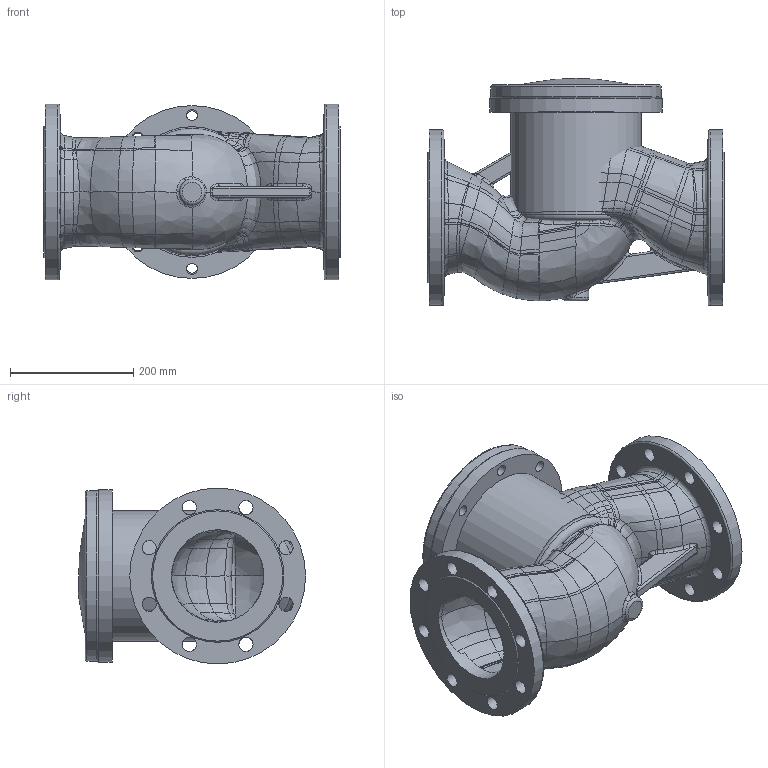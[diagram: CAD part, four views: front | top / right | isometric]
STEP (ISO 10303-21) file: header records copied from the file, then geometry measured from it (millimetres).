
FILE_DESCRIPTION(/* description */ ('STEP AP203'),/* implementation_level */ '2;1');
FILE_NAME(/* name */ '',/* time_stamp */ '2025-02-21T12:16:33+07:00',/* author */ ('Eva'),/* organization */ (''),/* preprocessor_version */ 'ST-DEVELOPER v20',/* originating_system */ 'Autodesk Inventor 2025',/* authorisation */ '');
FILE_SCHEMA (('AUTOMOTIVE_DESIGN { 1 0 10303 214 3 1 1 }'));
Products named in the file (3): 止回阀150; 止回阀150阀盖; 150.stp
Assembly tree (2 placements, depth 2):
  止回阀150
    止回阀150阀盖
    150.stp
Bounding box: 480 x 368.16 x 285 mm (x, y, z)
Volume: 10250810.4 mm3; surface area: 1520962.3 mm2
Topology: 5 solids, 5 shells, 1220 faces, 2903 edges, 1696 vertices
Faces by surface type: bspline 1010, cylinder 78, plane 73, torus 29, cone 25, sphere 5
Full cylindrical faces by diameter (mm): 5 x1, 18 x16, 23 x16, 60 x1, 66 x1, 84 x1, 135 x1, 153 x1, 159 x1, 175 x3, 178 x1, 195 x1, 206.159 x1, 208 x1, 211.759 x2, 276 x1, 280 x1, 285 x2
Entity records: 79793 total; most frequent: CARTESIAN_POINT 57821, ORIENTED_EDGE 5790, EDGE_CURVE 2895, DIRECTION 2426, VERTEX_POINT 1696, B_SPLINE_CURVE_WITH_KNOTS 1692, EDGE_LOOP 1311, FACE_OUTER_BOUND 1220
